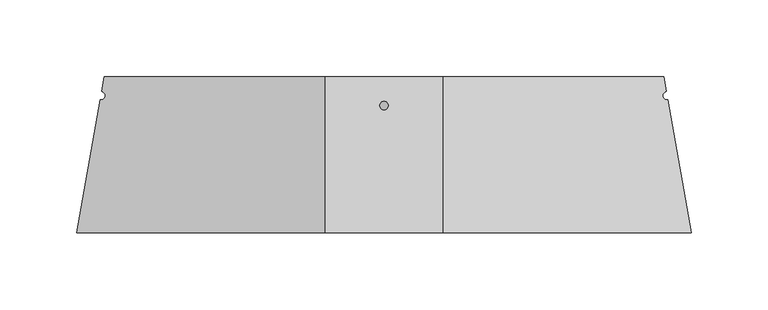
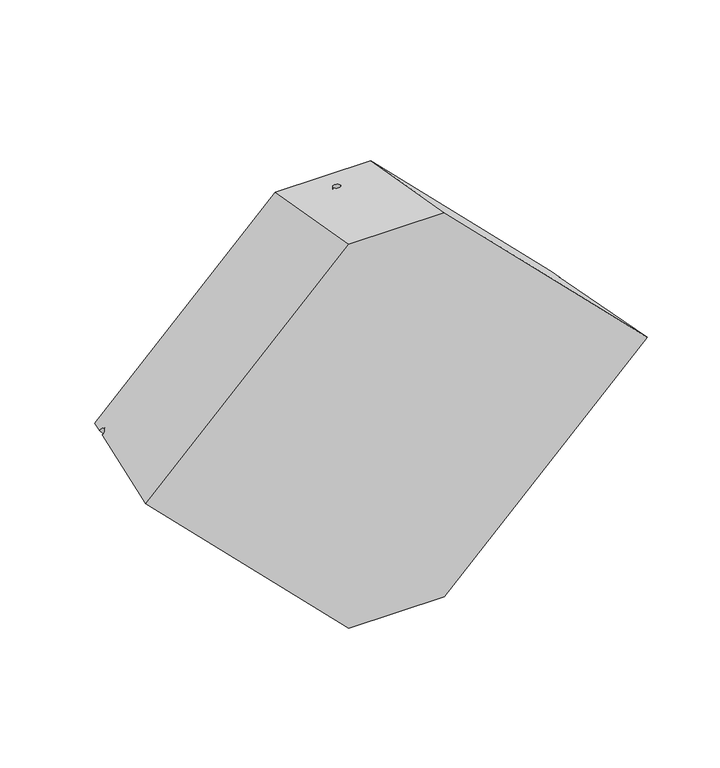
"""IFC4 building model written with IfcOpenShell, lengths in millimetres: proxy geometry, GRADIENT^TABLE 1_OCTAGON LEGS-METAL BRACKET."""

from ifc_helpers import new_model, si_unit, frame, origin, place, context, project, spatial, polyline, circle_curve, ellipse_curve, source, transform, mapped, element, save
from ifc_brep_helpers import plane_surface, revolved_surface, advanced_brep


def generic_models_32f886f8(model_context):
    return source(origin(), model_context, "Body", "AdvancedBrep", [
        advanced_brep(
        [(40.878125, 647.8929895, 2.778125), (40.878125, 673.3894123, 147.3755242), (35.321875, 673.3894123, 147.3755242), (35.321875, 647.8929895, 2.778125), (38.1, 650.2241132, 0.0), (35.321875, 647.8929895, -2.778125), (35.321875, 673.3894123, -147.3755242), (40.878125, 673.3894123, -147.3755242), (40.878125, 647.8929895, -2.778125), (-143.5323143, 679.4298087, 2.778125), (-145.7442523, 682.6408151, 0.0), (-143.5323143, 679.4298087, -2.778125), (219.7323143, 679.4298087, -2.778125), (221.9442523, 682.6408151, 0.0), (219.7323143, 679.4298087, 2.778125), (-161.9823476, 590.55, 0.0), (0.0, 590.55, -161.9823476), (76.2, 590.55, -161.9823476), (238.1823476, 590.55, 0.0), (76.2, 590.55, 161.9823476), (0.0, 590.55, 161.9823476), (0.0, 692.15, -144.0675264), (76.2, 692.15, -144.0675264), (76.2, 692.15, 144.0675264), (0.0, 692.15, 144.0675264), (-144.0675264, 692.15, 0.0), (220.2675264, 692.15, 0.0), (-146.7090849, 677.168977, 0.0), (222.9090849, 677.168977, 0.0), (38.5753035, 644.7075511, -0.4753035), (38.1, 644.582149, 0.0), (38.5753035, 644.7075511, 0.4753035), (37.6246965, 644.7075511, 0.4753035), (37.6246965, 644.7075511, -0.4753035)],
        [
            (0, 1),
            (1, 2, circle_curve(frame((38.1, 673.3894123, 147.3755242), z_axis=(0.0, 0.1736481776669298, 0.9848077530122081), x_axis=(1.0, 0.0, 0.0)), 2.778125)),
            (2, 3),
            (3, 4, ellipse_curve(frame((38.1, 647.4031311, 0.0), z_axis=(-0.7071067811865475, 0.0, -0.7071067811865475), x_axis=(-0.6860968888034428, 0.2419547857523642, 0.6860968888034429)), 3.9894711, 2.778125)),
            (4, 0, ellipse_curve(frame((38.1, 647.4031311, 0.0), z_axis=(0.7071067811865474, 0.0, -0.7071067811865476), x_axis=(0.6860968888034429, 0.24195478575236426, 0.6860968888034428)), 3.9894711, 2.778125)),
            (5, 6),
            (6, 7, circle_curve(frame((38.1, 673.3894123, -147.3755242), z_axis=(0.0, 0.1736481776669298, -0.9848077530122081), x_axis=(-1.0, 0.0, 0.0)), 2.778125)),
            (7, 8),
            (8, 4, ellipse_curve(frame((38.1, 647.4031311, 0.0), z_axis=(0.7071067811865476, 0.0, 0.7071067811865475), x_axis=(0.6860968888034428, 0.24195478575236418, -0.6860968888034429)), 3.9894711, 2.778125)),
            (4, 5, ellipse_curve(frame((38.1, 647.4031311, 0.0), z_axis=(-0.7071067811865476, 0.0, 0.7071067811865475), x_axis=(-0.6860968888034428, 0.2419547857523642, -0.6860968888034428)), 3.9894711, 2.778125)),
            (3, 9),
            (9, 10, ellipse_curve(frame((-146.2266686, 679.904896, 0.0), z_axis=(-0.7016738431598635, 0.1237240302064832, 0.7016738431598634), x_axis=(-0.6910138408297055, 0.12184438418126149, -0.7124982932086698)), 3.8991321, 2.778125)),
            (10, 11, ellipse_curve(frame((-146.2266686, 679.904896, 0.0), z_axis=(-0.7016738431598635, 0.12372403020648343, -0.7016738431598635), x_axis=(-0.6910138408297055, 0.12184438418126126, 0.7124982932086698)), 3.8991321, 2.778125)),
            (11, 5),
            (8, 12),
            (12, 13, ellipse_curve(frame((222.4266686, 679.904896, 0.0), z_axis=(0.7016738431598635, 0.12372403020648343, -0.7016738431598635), x_axis=(0.6910138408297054, 0.12184438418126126, 0.7124982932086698)), 3.8991321, 2.778125)),
            (13, 14, ellipse_curve(frame((222.4266686, 679.904896, 0.0), z_axis=(0.7016738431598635, 0.1237240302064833, 0.7016738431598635), x_axis=(0.6910138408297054, 0.12184438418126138, -0.7124982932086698)), 3.8991321, 2.778125)),
            (14, 0),
            (15, 16),
            (16, 17),
            (17, 18),
            (18, 19),
            (19, 20),
            (20, 15),
            (21, 22),
            (22, 17),
            (16, 21),
            (6, 7, circle_curve(frame((38.1, 673.3894123, -147.3755242), z_axis=(0.0, -0.1736481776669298, 0.9848077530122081), x_axis=(-1.0, 0.0, 0.0)), 2.778125)),
            (19, 23),
            (23, 24),
            (24, 20),
            (1, 2, circle_curve(frame((38.1, 673.3894123, 147.3755242), z_axis=(0.0, -0.1736481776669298, -0.9848077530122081), x_axis=(1.0, 0.0, 0.0)), 2.778125)),
            (21, 25),
            (25, 24),
            (23, 26),
            (26, 22),
            (15, 27),
            (27, 11, ellipse_curve(frame((-146.2266686, 679.904896, 0.0), z_axis=(0.7016738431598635, -0.12372403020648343, 0.7016738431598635), x_axis=(-0.6910138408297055, 0.12184438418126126, 0.7124982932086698)), 3.8991321, 2.778125)),
            (10, 25),
            (9, 27, ellipse_curve(frame((-146.2266686, 679.904896, 0.0), z_axis=(0.7016738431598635, -0.1237240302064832, -0.7016738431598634), x_axis=(-0.6910138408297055, 0.12184438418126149, -0.7124982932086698)), 3.8991321, 2.778125)),
            (26, 13),
            (12, 28, ellipse_curve(frame((222.4266686, 679.904896, 0.0), z_axis=(-0.7016738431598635, -0.12372403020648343, 0.7016738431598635), x_axis=(0.6910138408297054, 0.12184438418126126, 0.7124982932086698)), 3.8991321, 2.778125)),
            (28, 18),
            (28, 14, ellipse_curve(frame((222.4266686, 679.904896, 0.0), z_axis=(-0.7016738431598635, -0.1237240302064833, -0.7016738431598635), x_axis=(0.6910138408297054, 0.12184438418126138, -0.7124982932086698)), 3.8991321, 2.778125)),
            (8, 29, ellipse_curve(frame((38.1, 647.4031311, 0.0), z_axis=(-0.7071067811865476, 0.0, -0.7071067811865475), x_axis=(0.6860968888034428, 0.2419547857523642, -0.686096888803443)), 3.9894711, 2.778125)),
            (29, 30, ellipse_curve(frame((38.1, 647.4031311, 0.0), z_axis=(-0.7071067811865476, 0.0, -0.7071067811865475), x_axis=(0.6860968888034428, 0.2419547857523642, -0.686096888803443)), 3.9894711, 2.778125)),
            (30, 31, ellipse_curve(frame((38.1, 647.4031311, 0.0), z_axis=(-0.7071067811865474, 0.0, 0.7071067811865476), x_axis=(0.6860968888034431, 0.24195478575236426, 0.6860968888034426)), 3.9894711, 2.778125)),
            (31, 0, ellipse_curve(frame((38.1, 647.4031311, 0.0), z_axis=(-0.7071067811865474, 0.0, 0.7071067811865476), x_axis=(0.6860968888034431, 0.24195478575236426, 0.6860968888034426)), 3.9894711, 2.778125)),
            (3, 32, ellipse_curve(frame((38.1, 647.4031311, 0.0), z_axis=(0.7071067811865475, 0.0, 0.7071067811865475), x_axis=(-0.6860968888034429, 0.2419547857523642, 0.6860968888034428)), 3.9894711, 2.778125)),
            (32, 30, ellipse_curve(frame((38.1, 647.4031311, 0.0), z_axis=(0.7071067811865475, 0.0, 0.7071067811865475), x_axis=(-0.6860968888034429, 0.2419547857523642, 0.6860968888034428)), 3.9894711, 2.778125)),
            (30, 33, ellipse_curve(frame((38.1, 647.4031311, 0.0), z_axis=(0.7071067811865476, 0.0, -0.7071067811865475), x_axis=(-0.6860968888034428, 0.24195478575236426, -0.6860968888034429)), 3.9894711, 2.778125)),
            (33, 5, ellipse_curve(frame((38.1, 647.4031311, 0.0), z_axis=(0.7071067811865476, 0.0, -0.7071067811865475), x_axis=(-0.6860968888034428, 0.24195478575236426, -0.6860968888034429)), 3.9894711, 2.778125)),
        ],
        [
            revolved_surface(polyline([(40.878125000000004, 673.3894122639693, 147.3755242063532), (40.878125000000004, 646.9059419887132, -2.8196992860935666)]), (38.1, 671.1840804, 134.8684657), (0.0, 0.1736481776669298, 0.9848077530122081)),
            revolved_surface(polyline([(35.321875, 673.3894122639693, -147.3755242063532), (35.321875, 646.9059419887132, 2.8196992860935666)]), (38.1, 671.1840804, -134.8684657), (0.0, 0.1736481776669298, -0.9848077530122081)),
            revolved_surface(polyline([(-148.92102285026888, 680.3799833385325, 2.778125), (40.919699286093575, 646.9059419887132, 2.778125)]), (-96.7684657, 671.1840804, 0.0), (-0.9848077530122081, 0.1736481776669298, 0.0)),
            revolved_surface(polyline([(225.12102285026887, 680.3799833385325, -2.778125), (35.28030071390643, 646.9059419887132, -2.778125)]), (172.9684657, 671.1840804, 0.0), (0.9848077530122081, 0.1736481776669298, 0.0)),
            plane_surface(frame((-123.8823476, 590.55, 0.0), z_axis=(0.0, -1.0, 0.0), x_axis=(1.0, 0.0, 0.0))),
            plane_surface(frame((74.3067842, 641.35, -153.024937), z_axis=(0.0, 0.1736481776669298, -0.9848077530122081), x_axis=(1.0, 0.0, 0.0))),
            plane_surface(frame((1.8932158, 641.35, 153.024937), z_axis=(0.0, 0.1736481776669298, 0.9848077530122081), x_axis=(-1.0, 0.0, 0.0))),
            plane_surface(frame((-103.2697004, 692.15, 0.0), z_axis=(0.0, 1.0, 0.0), x_axis=(-1.0, 0.0, 0.0))),
            plane_surface(frame((-61.9411738, 590.55, -100.0411738), z_axis=(-0.7016738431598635, 0.12372403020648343, -0.7016738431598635), x_axis=(0.08748610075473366, 0.9923166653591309, 0.08748610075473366))),
            plane_surface(frame((-52.9837632, 692.15, 91.0837632), z_axis=(-0.7016738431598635, 0.1237240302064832, 0.7016738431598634), x_axis=(-0.08748610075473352, -0.9923166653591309, 0.08748610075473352))),
            plane_surface(frame((129.1837632, 692.15, -91.0837632), z_axis=(0.7016738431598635, 0.12372403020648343, -0.7016738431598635), x_axis=(0.08748610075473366, -0.9923166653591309, -0.08748610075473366))),
            plane_surface(frame((129.1837632, 692.15, 91.0837632), z_axis=(0.7016738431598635, 0.1237240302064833, 0.7016738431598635), x_axis=(0.08748610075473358, -0.9923166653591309, 0.08748610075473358))),
        ],
        [
            (0, [[1, 2, 3, 4, 5]]),
            (1, [[6, 7, 8, 9, 10]]),
            (2, [[11, 12, 13, 14, -10, -4]]),
            (3, [[15, 16, 17, 18, -5, -9]]),
            (4, [[19, 20, 21, 22, 23, 24]]),
            (5, [[25, 26, -20, 27], [28, -7]]),
            (6, [[-23, 29, 30, 31], [32, -2]]),
            (7, [[33, 34, -30, 35, 36, -25]]),
            (8, [[-33, -27, -19, 37, 38, -13, 39]]),
            (9, [[-37, -24, -31, -34, -39, -12, 40]]),
            (10, [[-21, -26, -36, 41, -16, 42, 43]]),
            (11, [[-41, -35, -29, -22, -43, 44, -17]]),
            (3, [[-15, 45, 46, 47, 48, -18, -44, -42]]),
            (2, [[-11, 49, 50, 51, 52, -14, -38, -40]]),
            (1, [[-6, -52, -51, -46, -45, -8, -28]]),
            (0, [[-1, -48, -47, -50, -49, -3, -32]]),
        ],
    ),
    ])


if __name__ == "__main__":
    model = new_model("IFC4")
    model_context = context("Model", 3, world=origin())
    ifc_project = project(units=[si_unit("LENGTHUNIT", "METRE", prefix="MILLI")], contexts=[model_context])
    site = spatial("IfcSite", under=ifc_project)
    building = spatial("IfcBuilding", under=site)
    placement = place(None, origin())
    generic_models_shape = generic_models_32f886f8(model_context)
    element("IfcBuildingElementProxy", 1, Name="GRADIENT^TABLE 1_OCTAGON LEGS-METAL BRACKET", ObjectType="GRADIENT^TABLE 1_OCTAGON LEGS-METAL BRACKET", at=placement, inside=building, context=model_context, shape_type="MappedRepresentation", body=[
        mapped(generic_models_shape, transform((0.0, 0.0, 0.0), x_axis=(1.0, 0.0, 0.0), y_axis=(0.0, 1.0, 0.0), z_axis=(0.0, 0.0, 1.0))),
    ])
    save(model, "model.ifc")
